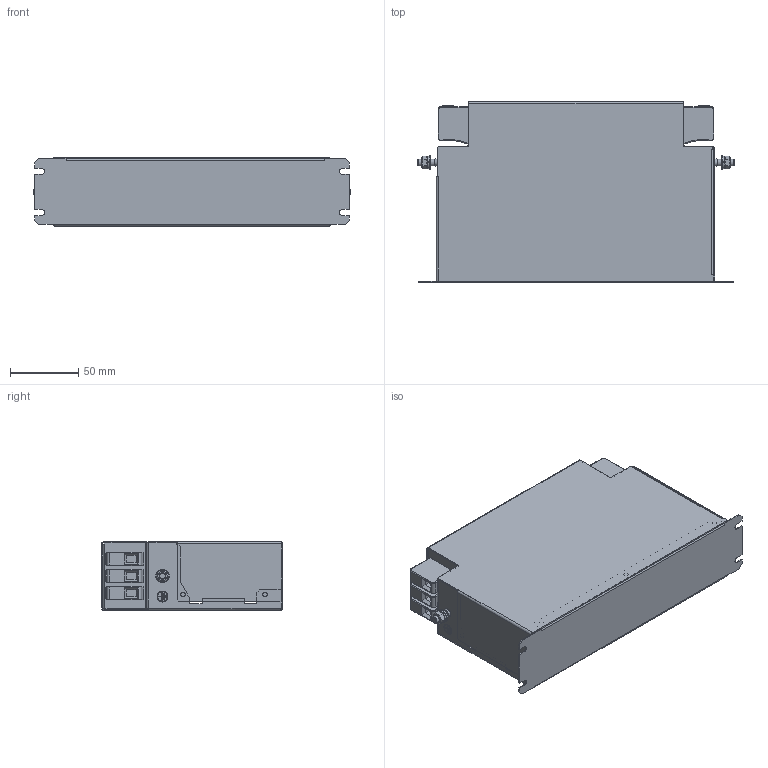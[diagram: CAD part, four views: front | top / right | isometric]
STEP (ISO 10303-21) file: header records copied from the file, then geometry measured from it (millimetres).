
FILE_DESCRIPTION(/* description */ ('raw material description'),/* implementation_level */ '2;1');
FILE_NAME(/* name */ 'C:\Users\Oliver.Volic\OneDrive - Schaffner EMV AG\Projekte\STEP\Wanda\FN3288IT-10-44.stp',/* time_stamp */ '2018-06-28T09:53:23+02:00',/* author */ ('Oliver.Volic'),/* organization */ ('Schaffner EMV AG'),/* preprocessor_version */ 'ST-DEVELOPER v16.5',/* originating_system */ 'Autodesk Inventor 2017',/* authorisation */ '');
FILE_SCHEMA (('AUTOMOTIVE_DESIGN { 1 0 10303 214 3 1 1 }'));
Length unit declared in the file: millimetre
Products named in the file (1): FN3288IT-10-44
Bounding box: 231 x 132.1 x 50 mm (x, y, z)
Volume: 112173.5 mm3; surface area: 191956.4 mm2
Topology: 1 solids, 1 shells, 1125 faces, 2835 edges, 1741 vertices
Faces by surface type: plane 700, cylinder 298, torus 60, sphere 36, bspline 17, cone 14
Full cylindrical faces by diameter (mm): 3.3 x13, 4.5 x6, 5 x4, 5.3 x2, 6.206 x2, 7 x2, 8 x2, 8.5 x6, 10 x2
Entity records: 33978 total; most frequent: CARTESIAN_POINT 6066, DIRECTION 5597, ORIENTED_EDGE 5404, EDGE_CURVE 2702, LINE 1911, VECTOR 1911, AXIS2_PLACEMENT_3D 1843, VERTEX_POINT 1721
